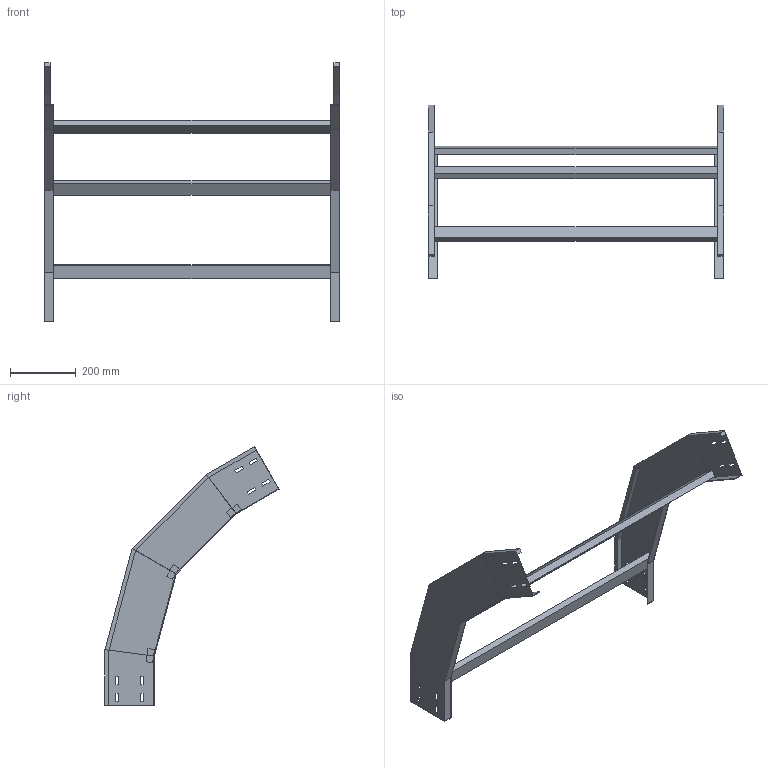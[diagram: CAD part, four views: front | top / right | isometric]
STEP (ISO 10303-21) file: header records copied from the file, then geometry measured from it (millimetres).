
FILE_DESCRIPTION (( 'STEP AP214' ), '1' );
FILE_NAME ('41J5F900.step', '2025-02-21T16:22:54', ( '' ), ( '' ), 'SwSTEP 2.0', 'SolidWorks 2023', '' );
FILE_SCHEMA (( 'AUTOMOTIVE_DESIGN' ));
Length unit declared in the file: millimetre
Products named in the file (3): TRAVERSINO_900; LONGH.DISCESA_60°_H150_R500; 41J5F900
Assembly tree (5 placements, depth 2):
  41J5F900
    LONGH.DISCESA_60°_H150_R500  x2
    TRAVERSINO_900  x3
Bounding box: 900 x 530.08 x 788.22 mm (x, y, z)
Volume: 3163463.6 mm3; surface area: 1017096.7 mm2
Topology: 5 solids, 5 shells, 150 faces, 372 edges, 232 vertices
Faces by surface type: plane 150
Entity records: 2216 total; most frequent: CARTESIAN_POINT 372, ORIENTED_EDGE 360, DIRECTION 340, EDGE_CURVE 180, LINE 180, VECTOR 180, VERTEX_POINT 112, EDGE_LOOP 88
